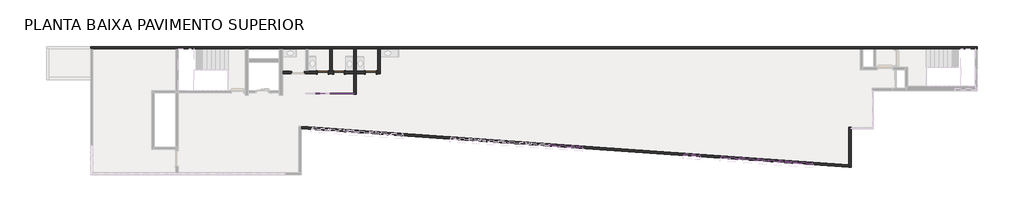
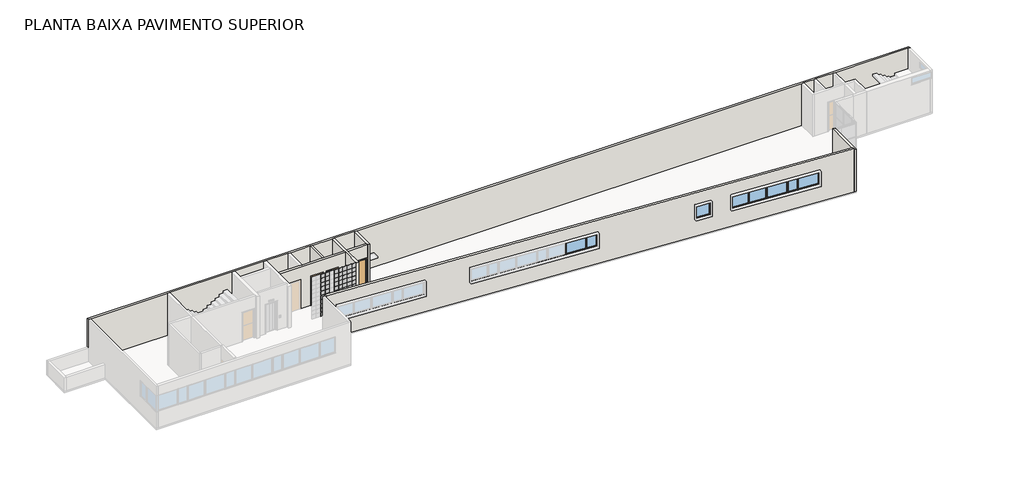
# One storey, part 2 of 4: 66 plates, 8 walls, 8 windows, 3 doors.
"""IFC4 building model written with IfcOpenShell, lengths in millimetres."""

from ifc_helpers import new_model, si_unit, frame, origin, place, context, project, spatial, polyline, outline, extrude, faceted_brep, transform, mapped, element, save
from components import door_700_x_2100_mm_6c6cf384, door_700_x_2100_mm_1d7fae46, painel_do_sistema_73d1a4aa, aluminum_exterior_window_2_wide_3886_0_70_x_1_00m_ebdd4f97, aluminum_exterior_window_2_wide_3886_1_00_x_1_00m_4173611b, aluminum_exterior_window_2_wide_3886_1_20_x_1_00m_ff6d45cf, aluminum_exterior_window_2_wide_3886_1_40_x_1_00m_dec34682

model = new_model("IFC4")

# Units and contexts
model_context = context("Model", 3, world=origin())
ifc_project = project(units=[si_unit("LENGTHUNIT", "METRE", prefix="MILLI")], contexts=[model_context])

# Site, building, storey
site = spatial("IfcSite", under=ifc_project)
building = spatial("IfcBuilding", under=site)
storey = spatial("IfcBuildingStorey", under=building, Name="PLANTA BAIXA PAVIMENTO SUPERIOR", Elevation=4000.0)

# Doors
placement = place(None, origin())
door_700_x_2100_mm_shape = door_700_x_2100_mm_6c6cf384(model_context)
element("IfcDoor", 1, ObjectType="M_Folha única : 700 x 2100 mm", at=placement, inside=storey, context=model_context, shape_type="MappedRepresentation", body=[
    mapped(door_700_x_2100_mm_shape, transform((1495.3673655, -4416.1116245, 4000.0), x_axis=(-1.0, 0.0, 0.0), y_axis=(0.0, -1.0, 0.0), z_axis=(0.0, 0.0, 1.0))),
])
door_700_x_2100_mm_2_shape = door_700_x_2100_mm_1d7fae46(model_context)
element("IfcDoor", 2, ObjectType="M_Folha única : 700 x 2100 mm", at=placement, inside=storey, context=model_context, shape_type="MappedRepresentation", body=[
    mapped(door_700_x_2100_mm_2_shape, transform((445.3673655, -4416.1116245, 4000.0), x_axis=(1.0, 0.0, 0.0), y_axis=(0.0, 1.0, 0.0), z_axis=(0.0, 0.0, 1.0))),
])
element("IfcDoor", 3, ObjectType="M_Folha única : 700 x 2100 mm", at=placement, inside=storey, context=model_context, shape_type="MappedRepresentation", body=[
    mapped(door_700_x_2100_mm_2_shape, transform((3545.3673655, -4416.1116245, 4000.0), x_axis=(1.0, 0.0, 0.0), y_axis=(0.0, 1.0, 0.0), z_axis=(0.0, 0.0, 1.0))),
])

# Plates
painel_do_sistema_shape = painel_do_sistema_73d1a4aa(model_context)
element("IfcPlate", 4, ObjectType="Painel do sistema : Envidraçado", at=placement, inside=storey, context=model_context, shape_type="MappedRepresentation", body=[
    mapped(painel_do_sistema_shape, transform((2290.3673654, -5741.1116245, 4000.0), x_axis=(-1.0, 0.0, 0.0), y_axis=(0.0, -1.0, 0.0), z_axis=(0.0, 0.0, 1.0))),
])
element("IfcPlate", 5, ObjectType="Painel do sistema : Envidraçado", at=placement, inside=storey, context=model_context, shape_type="MappedRepresentation", body=[
    mapped(painel_do_sistema_shape, transform((2290.3673654, -5741.1116245, 4310.0), x_axis=(-1.0, 0.0, 0.0), y_axis=(0.0, -1.0, 0.0), z_axis=(0.0, 0.0, 1.0))),
])
element("IfcPlate", 6, ObjectType="Painel do sistema : Envidraçado", at=placement, inside=storey, context=model_context, shape_type="MappedRepresentation", body=[
    mapped(painel_do_sistema_shape, transform((2290.3673654, -5741.1116245, 4620.0), x_axis=(-1.0, 0.0, 0.0), y_axis=(0.0, -1.0, 0.0), z_axis=(0.0, 0.0, 1.0))),
])
element("IfcPlate", 7, ObjectType="Painel do sistema : Envidraçado", at=placement, inside=storey, context=model_context, shape_type="MappedRepresentation", body=[
    mapped(painel_do_sistema_shape, transform((2290.3673654, -5741.1116245, 4930.0), x_axis=(-1.0, 0.0, 0.0), y_axis=(0.0, -1.0, 0.0), z_axis=(0.0, 0.0, 1.0))),
])
element("IfcPlate", 8, ObjectType="Painel do sistema : Envidraçado", at=placement, inside=storey, context=model_context, shape_type="MappedRepresentation", body=[
    mapped(painel_do_sistema_shape, transform((2290.3673654, -5741.1116245, 5240.0), x_axis=(-1.0, 0.0, 0.0), y_axis=(0.0, -1.0, 0.0), z_axis=(0.0, 0.0, 1.0))),
])
element("IfcPlate", 9, ObjectType="Painel do sistema : Envidraçado", at=placement, inside=storey, context=model_context, shape_type="MappedRepresentation", body=[
    mapped(painel_do_sistema_shape, transform((2290.3673654, -5741.1116245, 5550.0), x_axis=(-1.0, 0.0, 0.0), y_axis=(0.0, -1.0, 0.0), z_axis=(0.0, 0.0, 1.0))),
])
element("IfcPlate", 10, ObjectType="Painel do sistema : Envidraçado", at=placement, inside=storey, context=model_context, shape_type="MappedRepresentation", body=[
    mapped(painel_do_sistema_shape, transform((2290.3673654, -5741.1116245, 5860.0), x_axis=(-1.0, 0.0, 0.0), y_axis=(0.0, -1.0, 0.0), z_axis=(0.0, 0.0, 1.0))),
])
element("IfcPlate", 11, ObjectType="Painel do sistema : Envidraçado", at=placement, inside=storey, context=model_context, shape_type="MappedRepresentation", body=[
    mapped(painel_do_sistema_shape, transform((2290.3673654, -5741.1116245, 6170.0), x_axis=(-1.0, 0.0, 0.0), y_axis=(0.0, -1.0, 0.0), z_axis=(0.0, 0.0, 1.0))),
])
element("IfcPlate", 12, ObjectType="Painel do sistema : Envidraçado", at=placement, inside=storey, context=model_context, shape_type="MappedRepresentation", body=[
    mapped(painel_do_sistema_shape, transform((2290.3673654, -5741.1116245, 6480.0), x_axis=(-1.0, 0.0, 0.0), y_axis=(0.0, -1.0, 0.0), z_axis=(0.0, 0.0, 1.0))),
])
element("IfcPlate", 13, ObjectType="Painel do sistema : Envidraçado", at=placement, inside=storey, context=model_context, shape_type="MappedRepresentation", body=[
    mapped(painel_do_sistema_shape, transform((2290.3673654, -5741.1116245, 6790.0), x_axis=(-1.0, 0.0, 0.0), y_axis=(0.0, -1.0, 0.0), z_axis=(0.0, 0.0, 1.0))),
])
element("IfcPlate", 14, ObjectType="Painel do sistema : Envidraçado", at=placement, inside=storey, context=model_context, shape_type="MappedRepresentation", body=[
    mapped(painel_do_sistema_shape, transform((1980.3673653, -5741.1116245, 4000.0), x_axis=(-1.0, 0.0, 0.0), y_axis=(0.0, -1.0, 0.0), z_axis=(0.0, 0.0, 1.0))),
])
element("IfcPlate", 15, ObjectType="Painel do sistema : Envidraçado", at=placement, inside=storey, context=model_context, shape_type="MappedRepresentation", body=[
    mapped(painel_do_sistema_shape, transform((1980.3673653, -5741.1116245, 4310.0), x_axis=(-1.0, 0.0, 0.0), y_axis=(0.0, -1.0, 0.0), z_axis=(0.0, 0.0, 1.0))),
])
element("IfcPlate", 16, ObjectType="Painel do sistema : Envidraçado", at=placement, inside=storey, context=model_context, shape_type="MappedRepresentation", body=[
    mapped(painel_do_sistema_shape, transform((1980.3673653, -5741.1116245, 4620.0), x_axis=(-1.0, 0.0, 0.0), y_axis=(0.0, -1.0, 0.0), z_axis=(0.0, 0.0, 1.0))),
])
element("IfcPlate", 17, ObjectType="Painel do sistema : Envidraçado", at=placement, inside=storey, context=model_context, shape_type="MappedRepresentation", body=[
    mapped(painel_do_sistema_shape, transform((1980.3673653, -5741.1116245, 4930.0), x_axis=(-1.0, 0.0, 0.0), y_axis=(0.0, -1.0, 0.0), z_axis=(0.0, 0.0, 1.0))),
])
element("IfcPlate", 18, ObjectType="Painel do sistema : Envidraçado", at=placement, inside=storey, context=model_context, shape_type="MappedRepresentation", body=[
    mapped(painel_do_sistema_shape, transform((1980.3673653, -5741.1116245, 5240.0), x_axis=(-1.0, 0.0, 0.0), y_axis=(0.0, -1.0, 0.0), z_axis=(0.0, 0.0, 1.0))),
])
element("IfcPlate", 19, ObjectType="Painel do sistema : Envidraçado", at=placement, inside=storey, context=model_context, shape_type="MappedRepresentation", body=[
    mapped(painel_do_sistema_shape, transform((1980.3673653, -5741.1116245, 5550.0), x_axis=(-1.0, 0.0, 0.0), y_axis=(0.0, -1.0, 0.0), z_axis=(0.0, 0.0, 1.0))),
])
element("IfcPlate", 20, ObjectType="Painel do sistema : Envidraçado", at=placement, inside=storey, context=model_context, shape_type="MappedRepresentation", body=[
    mapped(painel_do_sistema_shape, transform((1980.3673653, -5741.1116245, 5860.0), x_axis=(-1.0, 0.0, 0.0), y_axis=(0.0, -1.0, 0.0), z_axis=(0.0, 0.0, 1.0))),
])
element("IfcPlate", 21, ObjectType="Painel do sistema : Envidraçado", at=placement, inside=storey, context=model_context, shape_type="MappedRepresentation", body=[
    mapped(painel_do_sistema_shape, transform((1980.3673653, -5741.1116245, 6170.0), x_axis=(-1.0, 0.0, 0.0), y_axis=(0.0, -1.0, 0.0), z_axis=(0.0, 0.0, 1.0))),
])
element("IfcPlate", 22, ObjectType="Painel do sistema : Envidraçado", at=placement, inside=storey, context=model_context, shape_type="MappedRepresentation", body=[
    mapped(painel_do_sistema_shape, transform((1980.3673653, -5741.1116245, 6480.0), x_axis=(-1.0, 0.0, 0.0), y_axis=(0.0, -1.0, 0.0), z_axis=(0.0, 0.0, 1.0))),
])
element("IfcPlate", 23, ObjectType="Painel do sistema : Envidraçado", at=placement, inside=storey, context=model_context, shape_type="MappedRepresentation", body=[
    mapped(painel_do_sistema_shape, transform((1980.3673653, -5741.1116245, 6790.0), x_axis=(-1.0, 0.0, 0.0), y_axis=(0.0, -1.0, 0.0), z_axis=(0.0, 0.0, 1.0))),
])
element("IfcPlate", 24, ObjectType="Painel do sistema : Envidraçado", at=placement, inside=storey, context=model_context, shape_type="MappedRepresentation", body=[
    mapped(painel_do_sistema_shape, transform((1670.3673654, -5741.1116245, 4000.0), x_axis=(-1.0, 0.0, 0.0), y_axis=(0.0, -1.0, 0.0), z_axis=(0.0, 0.0, 1.0))),
])
element("IfcPlate", 25, ObjectType="Painel do sistema : Envidraçado", at=placement, inside=storey, context=model_context, shape_type="MappedRepresentation", body=[
    mapped(painel_do_sistema_shape, transform((1670.3673654, -5741.1116245, 4310.0), x_axis=(-1.0, 0.0, 0.0), y_axis=(0.0, -1.0, 0.0), z_axis=(0.0, 0.0, 1.0))),
])
element("IfcPlate", 26, ObjectType="Painel do sistema : Envidraçado", at=placement, inside=storey, context=model_context, shape_type="MappedRepresentation", body=[
    mapped(painel_do_sistema_shape, transform((1670.3673654, -5741.1116245, 4620.0), x_axis=(-1.0, 0.0, 0.0), y_axis=(0.0, -1.0, 0.0), z_axis=(0.0, 0.0, 1.0))),
])
element("IfcPlate", 27, ObjectType="Painel do sistema : Envidraçado", at=placement, inside=storey, context=model_context, shape_type="MappedRepresentation", body=[
    mapped(painel_do_sistema_shape, transform((1670.3673654, -5741.1116245, 4930.0), x_axis=(-1.0, 0.0, 0.0), y_axis=(0.0, -1.0, 0.0), z_axis=(0.0, 0.0, 1.0))),
])
element("IfcPlate", 28, ObjectType="Painel do sistema : Envidraçado", at=placement, inside=storey, context=model_context, shape_type="MappedRepresentation", body=[
    mapped(painel_do_sistema_shape, transform((1670.3673654, -5741.1116245, 5240.0), x_axis=(-1.0, 0.0, 0.0), y_axis=(0.0, -1.0, 0.0), z_axis=(0.0, 0.0, 1.0))),
])
element("IfcPlate", 29, ObjectType="Painel do sistema : Envidraçado", at=placement, inside=storey, context=model_context, shape_type="MappedRepresentation", body=[
    mapped(painel_do_sistema_shape, transform((1670.3673654, -5741.1116245, 5550.0), x_axis=(-1.0, 0.0, 0.0), y_axis=(0.0, -1.0, 0.0), z_axis=(0.0, 0.0, 1.0))),
])
element("IfcPlate", 30, ObjectType="Painel do sistema : Envidraçado", at=placement, inside=storey, context=model_context, shape_type="MappedRepresentation", body=[
    mapped(painel_do_sistema_shape, transform((1670.3673654, -5741.1116245, 5860.0), x_axis=(-1.0, 0.0, 0.0), y_axis=(0.0, -1.0, 0.0), z_axis=(0.0, 0.0, 1.0))),
])
element("IfcPlate", 31, ObjectType="Painel do sistema : Envidraçado", at=placement, inside=storey, context=model_context, shape_type="MappedRepresentation", body=[
    mapped(painel_do_sistema_shape, transform((1670.3673654, -5741.1116245, 6170.0), x_axis=(-1.0, 0.0, 0.0), y_axis=(0.0, -1.0, 0.0), z_axis=(0.0, 0.0, 1.0))),
])
element("IfcPlate", 32, ObjectType="Painel do sistema : Envidraçado", at=placement, inside=storey, context=model_context, shape_type="MappedRepresentation", body=[
    mapped(painel_do_sistema_shape, transform((1670.3673654, -5741.1116245, 6480.0), x_axis=(-1.0, 0.0, 0.0), y_axis=(0.0, -1.0, 0.0), z_axis=(0.0, 0.0, 1.0))),
])
element("IfcPlate", 33, ObjectType="Painel do sistema : Envidraçado", at=placement, inside=storey, context=model_context, shape_type="MappedRepresentation", body=[
    mapped(painel_do_sistema_shape, transform((1670.3673654, -5741.1116245, 6790.0), x_axis=(-1.0, 0.0, 0.0), y_axis=(0.0, -1.0, 0.0), z_axis=(0.0, 0.0, 1.0))),
])
element("IfcPlate", 34, ObjectType="Painel do sistema : Envidraçado", at=placement, inside=storey, context=model_context, shape_type="MappedRepresentation", body=[
    mapped(painel_do_sistema_shape, transform((1360.3673654, -5741.1116245, 4000.0), x_axis=(-1.0, 0.0, 0.0), y_axis=(0.0, -1.0, 0.0), z_axis=(0.0, 0.0, 1.0))),
])
element("IfcPlate", 35, ObjectType="Painel do sistema : Envidraçado", at=placement, inside=storey, context=model_context, shape_type="MappedRepresentation", body=[
    mapped(painel_do_sistema_shape, transform((1360.3673654, -5741.1116245, 4310.0), x_axis=(-1.0, 0.0, 0.0), y_axis=(0.0, -1.0, 0.0), z_axis=(0.0, 0.0, 1.0))),
])
element("IfcPlate", 36, ObjectType="Painel do sistema : Envidraçado", at=placement, inside=storey, context=model_context, shape_type="MappedRepresentation", body=[
    mapped(painel_do_sistema_shape, transform((1360.3673654, -5741.1116245, 4620.0), x_axis=(-1.0, 0.0, 0.0), y_axis=(0.0, -1.0, 0.0), z_axis=(0.0, 0.0, 1.0))),
])
element("IfcPlate", 37, ObjectType="Painel do sistema : Envidraçado", at=placement, inside=storey, context=model_context, shape_type="MappedRepresentation", body=[
    mapped(painel_do_sistema_shape, transform((1360.3673654, -5741.1116245, 4930.0), x_axis=(-1.0, 0.0, 0.0), y_axis=(0.0, -1.0, 0.0), z_axis=(0.0, 0.0, 1.0))),
])
element("IfcPlate", 38, ObjectType="Painel do sistema : Envidraçado", at=placement, inside=storey, context=model_context, shape_type="MappedRepresentation", body=[
    mapped(painel_do_sistema_shape, transform((1360.3673654, -5741.1116245, 5240.0), x_axis=(-1.0, 0.0, 0.0), y_axis=(0.0, -1.0, 0.0), z_axis=(0.0, 0.0, 1.0))),
])
element("IfcPlate", 39, ObjectType="Painel do sistema : Envidraçado", at=placement, inside=storey, context=model_context, shape_type="MappedRepresentation", body=[
    mapped(painel_do_sistema_shape, transform((1360.3673654, -5741.1116245, 5550.0), x_axis=(-1.0, 0.0, 0.0), y_axis=(0.0, -1.0, 0.0), z_axis=(0.0, 0.0, 1.0))),
])
element("IfcPlate", 40, ObjectType="Painel do sistema : Envidraçado", at=placement, inside=storey, context=model_context, shape_type="MappedRepresentation", body=[
    mapped(painel_do_sistema_shape, transform((1360.3673654, -5741.1116245, 5860.0), x_axis=(-1.0, 0.0, 0.0), y_axis=(0.0, -1.0, 0.0), z_axis=(0.0, 0.0, 1.0))),
])
element("IfcPlate", 41, ObjectType="Painel do sistema : Envidraçado", at=placement, inside=storey, context=model_context, shape_type="MappedRepresentation", body=[
    mapped(painel_do_sistema_shape, transform((1360.3673654, -5741.1116245, 6170.0), x_axis=(-1.0, 0.0, 0.0), y_axis=(0.0, -1.0, 0.0), z_axis=(0.0, 0.0, 1.0))),
])
element("IfcPlate", 42, ObjectType="Painel do sistema : Envidraçado", at=placement, inside=storey, context=model_context, shape_type="MappedRepresentation", body=[
    mapped(painel_do_sistema_shape, transform((1360.3673654, -5741.1116245, 6480.0), x_axis=(-1.0, 0.0, 0.0), y_axis=(0.0, -1.0, 0.0), z_axis=(0.0, 0.0, 1.0))),
])
element("IfcPlate", 43, ObjectType="Painel do sistema : Envidraçado", at=placement, inside=storey, context=model_context, shape_type="MappedRepresentation", body=[
    mapped(painel_do_sistema_shape, transform((1360.3673654, -5741.1116245, 6790.0), x_axis=(-1.0, 0.0, 0.0), y_axis=(0.0, -1.0, 0.0), z_axis=(0.0, 0.0, 1.0))),
])
element("IfcPlate", 44, ObjectType="Painel do sistema : Envidraçado", at=placement, inside=storey, context=model_context, shape_type="MappedRepresentation", body=[
    mapped(painel_do_sistema_shape, transform((1050.3673655, -5741.1116245, 4000.0), x_axis=(-1.0, 0.0, 0.0), y_axis=(0.0, -1.0, 0.0), z_axis=(0.0, 0.0, 1.0))),
])
element("IfcPlate", 45, ObjectType="Painel do sistema : Envidraçado", at=placement, inside=storey, context=model_context, shape_type="MappedRepresentation", body=[
    mapped(painel_do_sistema_shape, transform((1050.3673655, -5741.1116245, 4310.0), x_axis=(-1.0, 0.0, 0.0), y_axis=(0.0, -1.0, 0.0), z_axis=(0.0, 0.0, 1.0))),
])
element("IfcPlate", 46, ObjectType="Painel do sistema : Envidraçado", at=placement, inside=storey, context=model_context, shape_type="MappedRepresentation", body=[
    mapped(painel_do_sistema_shape, transform((1050.3673655, -5741.1116245, 4620.0), x_axis=(-1.0, 0.0, 0.0), y_axis=(0.0, -1.0, 0.0), z_axis=(0.0, 0.0, 1.0))),
])
element("IfcPlate", 47, ObjectType="Painel do sistema : Envidraçado", at=placement, inside=storey, context=model_context, shape_type="MappedRepresentation", body=[
    mapped(painel_do_sistema_shape, transform((1050.3673655, -5741.1116245, 4930.0), x_axis=(-1.0, 0.0, 0.0), y_axis=(0.0, -1.0, 0.0), z_axis=(0.0, 0.0, 1.0))),
])
element("IfcPlate", 48, ObjectType="Painel do sistema : Envidraçado", at=placement, inside=storey, context=model_context, shape_type="MappedRepresentation", body=[
    mapped(painel_do_sistema_shape, transform((1050.3673655, -5741.1116245, 5240.0), x_axis=(-1.0, 0.0, 0.0), y_axis=(0.0, -1.0, 0.0), z_axis=(0.0, 0.0, 1.0))),
])
element("IfcPlate", 49, ObjectType="Painel do sistema : Envidraçado", at=placement, inside=storey, context=model_context, shape_type="MappedRepresentation", body=[
    mapped(painel_do_sistema_shape, transform((1050.3673655, -5741.1116245, 5550.0), x_axis=(-1.0, 0.0, 0.0), y_axis=(0.0, -1.0, 0.0), z_axis=(0.0, 0.0, 1.0))),
])
element("IfcPlate", 50, ObjectType="Painel do sistema : Envidraçado", at=placement, inside=storey, context=model_context, shape_type="MappedRepresentation", body=[
    mapped(painel_do_sistema_shape, transform((1050.3673655, -5741.1116245, 5860.0), x_axis=(-1.0, 0.0, 0.0), y_axis=(0.0, -1.0, 0.0), z_axis=(0.0, 0.0, 1.0))),
])
element("IfcPlate", 51, ObjectType="Painel do sistema : Envidraçado", at=placement, inside=storey, context=model_context, shape_type="MappedRepresentation", body=[
    mapped(painel_do_sistema_shape, transform((1050.3673655, -5741.1116245, 6170.0), x_axis=(-1.0, 0.0, 0.0), y_axis=(0.0, -1.0, 0.0), z_axis=(0.0, 0.0, 1.0))),
])
element("IfcPlate", 52, ObjectType="Painel do sistema : Envidraçado", at=placement, inside=storey, context=model_context, shape_type="MappedRepresentation", body=[
    mapped(painel_do_sistema_shape, transform((1050.3673655, -5741.1116245, 6480.0), x_axis=(-1.0, 0.0, 0.0), y_axis=(0.0, -1.0, 0.0), z_axis=(0.0, 0.0, 1.0))),
])
element("IfcPlate", 53, ObjectType="Painel do sistema : Envidraçado", at=placement, inside=storey, context=model_context, shape_type="MappedRepresentation", body=[
    mapped(painel_do_sistema_shape, transform((1050.3673655, -5741.1116245, 6790.0), x_axis=(-1.0, 0.0, 0.0), y_axis=(0.0, -1.0, 0.0), z_axis=(0.0, 0.0, 1.0))),
])
element("IfcPlate", 54, ObjectType="Painel do sistema : Envidraçado", at=placement, inside=storey, context=model_context, shape_type="MappedRepresentation", body=[
    mapped(painel_do_sistema_shape, transform((430.3673656, -5741.1116245, 5240.0), x_axis=(-1.0, 0.0, 0.0), y_axis=(0.0, -1.0, 0.0), z_axis=(0.0, 0.0, 1.0))),
])
element("IfcPlate", 55, ObjectType="Painel do sistema : Envidraçado", at=placement, inside=storey, context=model_context, shape_type="MappedRepresentation", body=[
    mapped(painel_do_sistema_shape, transform((430.3673656, -5741.1116245, 5550.0), x_axis=(-1.0, 0.0, 0.0), y_axis=(0.0, -1.0, 0.0), z_axis=(0.0, 0.0, 1.0))),
])
element("IfcPlate", 56, ObjectType="Painel do sistema : Envidraçado", at=placement, inside=storey, context=model_context, shape_type="MappedRepresentation", body=[
    mapped(painel_do_sistema_shape, transform((430.3673656, -5741.1116245, 5860.0), x_axis=(-1.0, 0.0, 0.0), y_axis=(0.0, -1.0, 0.0), z_axis=(0.0, 0.0, 1.0))),
])
element("IfcPlate", 57, ObjectType="Painel do sistema : Envidraçado", at=placement, inside=storey, context=model_context, shape_type="MappedRepresentation", body=[
    mapped(painel_do_sistema_shape, transform((430.3673656, -5741.1116245, 6170.0), x_axis=(-1.0, 0.0, 0.0), y_axis=(0.0, -1.0, 0.0), z_axis=(0.0, 0.0, 1.0))),
])
element("IfcPlate", 58, ObjectType="Painel do sistema : Envidraçado", at=placement, inside=storey, context=model_context, shape_type="MappedRepresentation", body=[
    mapped(painel_do_sistema_shape, transform((430.3673656, -5741.1116245, 6480.0), x_axis=(-1.0, 0.0, 0.0), y_axis=(0.0, -1.0, 0.0), z_axis=(0.0, 0.0, 1.0))),
])
element("IfcPlate", 59, ObjectType="Painel do sistema : Envidraçado", at=placement, inside=storey, context=model_context, shape_type="MappedRepresentation", body=[
    mapped(painel_do_sistema_shape, transform((430.3673656, -5741.1116245, 6790.0), x_axis=(-1.0, 0.0, 0.0), y_axis=(0.0, -1.0, 0.0), z_axis=(0.0, 0.0, 1.0))),
])
element("IfcPlate", 60, ObjectType="Painel do sistema : Envidraçado", at=placement, inside=storey, context=model_context, shape_type="MappedRepresentation", body=[
    mapped(painel_do_sistema_shape, transform((120.3673657, -5741.1116245, 4000.0), x_axis=(-1.0, 0.0, 0.0), y_axis=(0.0, -1.0, 0.0), z_axis=(0.0, 0.0, 1.0))),
])
element("IfcPlate", 61, ObjectType="Painel do sistema : Envidraçado", at=placement, inside=storey, context=model_context, shape_type="MappedRepresentation", body=[
    mapped(painel_do_sistema_shape, transform((120.3673657, -5741.1116245, 4310.0), x_axis=(-1.0, 0.0, 0.0), y_axis=(0.0, -1.0, 0.0), z_axis=(0.0, 0.0, 1.0))),
])
element("IfcPlate", 62, ObjectType="Painel do sistema : Envidraçado", at=placement, inside=storey, context=model_context, shape_type="MappedRepresentation", body=[
    mapped(painel_do_sistema_shape, transform((120.3673657, -5741.1116245, 4620.0), x_axis=(-1.0, 0.0, 0.0), y_axis=(0.0, -1.0, 0.0), z_axis=(0.0, 0.0, 1.0))),
])
element("IfcPlate", 63, ObjectType="Painel do sistema : Envidraçado", at=placement, inside=storey, context=model_context, shape_type="MappedRepresentation", body=[
    mapped(painel_do_sistema_shape, transform((120.3673657, -5741.1116245, 4930.0), x_axis=(-1.0, 0.0, 0.0), y_axis=(0.0, -1.0, 0.0), z_axis=(0.0, 0.0, 1.0))),
])
element("IfcPlate", 64, ObjectType="Painel do sistema : Envidraçado", at=placement, inside=storey, context=model_context, shape_type="MappedRepresentation", body=[
    mapped(painel_do_sistema_shape, transform((120.3673657, -5741.1116245, 5240.0), x_axis=(-1.0, 0.0, 0.0), y_axis=(0.0, -1.0, 0.0), z_axis=(0.0, 0.0, 1.0))),
])
element("IfcPlate", 65, ObjectType="Painel do sistema : Envidraçado", at=placement, inside=storey, context=model_context, shape_type="MappedRepresentation", body=[
    mapped(painel_do_sistema_shape, transform((120.3673657, -5741.1116245, 5550.0), x_axis=(-1.0, 0.0, 0.0), y_axis=(0.0, -1.0, 0.0), z_axis=(0.0, 0.0, 1.0))),
])
element("IfcPlate", 66, ObjectType="Painel do sistema : Envidraçado", at=placement, inside=storey, context=model_context, shape_type="MappedRepresentation", body=[
    mapped(painel_do_sistema_shape, transform((120.3673657, -5741.1116245, 5860.0), x_axis=(-1.0, 0.0, 0.0), y_axis=(0.0, -1.0, 0.0), z_axis=(0.0, 0.0, 1.0))),
])
element("IfcPlate", 67, ObjectType="Painel do sistema : Envidraçado", at=placement, inside=storey, context=model_context, shape_type="MappedRepresentation", body=[
    mapped(painel_do_sistema_shape, transform((120.3673657, -5741.1116245, 6170.0), x_axis=(-1.0, 0.0, 0.0), y_axis=(0.0, -1.0, 0.0), z_axis=(0.0, 0.0, 1.0))),
])
element("IfcPlate", 68, ObjectType="Painel do sistema : Envidraçado", at=placement, inside=storey, context=model_context, shape_type="MappedRepresentation", body=[
    mapped(painel_do_sistema_shape, transform((120.3673657, -5741.1116245, 6480.0), x_axis=(-1.0, 0.0, 0.0), y_axis=(0.0, -1.0, 0.0), z_axis=(0.0, 0.0, 1.0))),
])
element("IfcPlate", 69, ObjectType="Painel do sistema : Envidraçado", at=placement, inside=storey, context=model_context, shape_type="MappedRepresentation", body=[
    mapped(painel_do_sistema_shape, transform((120.3673657, -5741.1116245, 6790.0), x_axis=(-1.0, 0.0, 0.0), y_axis=(0.0, -1.0, 0.0), z_axis=(0.0, 0.0, 1.0))),
])

# Walls
element("IfcWall", 70, ObjectType="Genérica - 15cm", at=placement, inside=storey, context=model_context, shape_type="Brep", body=[
    faceted_brep([(-14554.6326345, -2891.1116245, 7100.0), (-14554.6326345, -2891.1116245, 5000.0), (-14554.6326345, -2891.1116245, 4000.0), (-14404.6326345, -2891.1116245, 4000.0), (-9054.6326345, -2891.1116245, 4000.0), (-8904.6326345, -2891.1116245, 4000.0), (-4554.6326345, -2891.1116245, 4000.0), (-4354.6326345, -2891.1116245, 4000.0), (-2354.6326345, -2891.1116245, 4000.0), (-2154.6326345, -2891.1116245, 4000.0), (-654.6326345, -2891.1116245, 4000.0), (-504.6326345, -2891.1116245, 4000.0), (895.3673655, -2891.1116245, 4000.0), (1045.3673655, -2891.1116245, 4000.0), (2445.3673655, -2891.1116245, 4000.0), (2595.3673655, -2891.1116245, 4000.0), (3995.3673655, -2891.1116245, 4000.0), (4145.3673655, -2891.1116245, 4000.0), (35195.3673655, -2891.1116245, 4000.0), (35345.3673655, -2891.1116245, 4000.0), (36045.3673655, -2891.1116245, 4000.0), (36195.3673655, -2891.1116245, 4000.0), (37395.3673655, -2891.1116245, 4000.0), (37545.3673655, -2891.1116245, 4000.0), (42605.3673655, -2891.1116245, 4000.0), (42755.3673655, -2891.1116245, 4000.0), (42755.3673655, -2891.1116245, 7100.0), (42605.3673655, -2891.1116245, 7100.0), (37545.3673655, -2891.1116245, 7100.0), (37395.3673655, -2891.1116245, 7100.0), (36195.3673655, -2891.1116245, 7100.0), (36045.3673655, -2891.1116245, 7100.0), (35345.3673655, -2891.1116245, 7100.0), (35195.3673655, -2891.1116245, 7100.0), (4145.3673655, -2891.1116245, 7100.0), (3995.3673655, -2891.1116245, 7100.0), (2595.3673655, -2891.1116245, 7100.0), (2445.3673655, -2891.1116245, 7100.0), (1045.3673655, -2891.1116245, 7100.0), (895.3673655, -2891.1116245, 7100.0), (-504.6326345, -2891.1116245, 7100.0), (-654.6326345, -2891.1116245, 7100.0), (-2154.6326345, -2891.1116245, 7100.0), (-2354.6326345, -2891.1116245, 7100.0), (-4354.6326345, -2891.1116245, 7100.0), (-4554.6326345, -2891.1116245, 7100.0), (-8904.6326345, -2891.1116245, 7100.0), (-9054.6326345, -2891.1116245, 7100.0), (-14404.6326345, -2891.1116245, 7100.0), (-14554.6326345, -2741.1116245, 4000.0), (-14554.6326345, -2741.1116245, 5000.0), (-14554.6326345, -2741.1116245, 7100.0), (42755.3673655, -2741.1116245, 7100.0), (42755.3673655, -2741.1116245, 4000.0)], [[[0, 1, 2, 3, 4, 5, 6, 7, 8, 9, 10, 11, 12, 13, 14, 15, 16, 17, 18, 19, 20, 21, 22, 23, 24, 25, 26, 27, 28, 29, 30, 31, 32, 33, 34, 35, 36, 37, 38, 39, 40, 41, 42, 43, 44, 45, 46, 47, 48]], [[49, 50, 51, 52, 53]], [[25, 24, 23, 22, 21, 20, 19, 18, 17, 16, 15, 14, 13, 12, 11, 10, 9, 8, 7, 6, 5, 4, 3, 2, 49, 53]], [[26, 25, 53, 52]], [[0, 51, 50, 49, 2, 1]], [[0, 48, 47, 46, 45, 44, 43, 42, 41, 40, 39, 38, 37, 36, 35, 34, 33, 32, 31, 30, 29, 28, 27, 26, 52, 51]]]),
])
element("IfcWall", 71, ObjectType="Genérica - 15cm", at=placement, inside=storey, context=model_context, shape_type="Brep", body=[
    faceted_brep([(34445.3673655, -7966.1116245, 4000.0), (34445.3673655, -10390.7380353, 4000.0), (34445.3673655, -10541.1116245, 4000.0), (34445.3673655, -10541.1116245, 7100.0), (34445.3673655, -7966.1116245, 7100.0), (34595.3673655, -7966.1116245, 4000.0), (34595.3673655, -7966.1116245, 7100.0), (34595.3673655, -8041.1116245, 7100.0), (34595.3673655, -10551.7048448, 7100.0), (34595.3673655, -10551.7048448, 4000.0)], [[[0, 1, 2, 3, 4]], [[5, 6, 7, 8, 9]], [[2, 1, 0, 5, 9]], [[0, 4, 6, 5]], [[3, 2, 9, 8]], [[4, 3, 8, 7, 6]]]),
])
element("IfcWall", 72, ObjectType="Genérica - 15cm", at=placement, inside=storey, context=model_context, shape_type="Brep", body=[
    faceted_brep([(34445.3673655, -10390.7380353, 4000.0), (-954.6326345, -7890.7380353, 4000.0), (-954.6326345, -7890.7380353, 7100.0), (-954.6326345, -7890.7380353, 7200.0), (34445.3673655, -10390.7380353, 7200.0), (-226.8189124, -7942.1373095, 6300.0), (-226.8189124, -7942.1373095, 5300.0), (5608.6473081, -8354.2465059, 5300.0), (5608.6473081, -8354.2465059, 6300.0), (8730.8711149, -8574.7425374, 6300.0), (8730.8711149, -8574.7425374, 5300.0), (17209.7536575, -9173.5336774, 5300.0), (17209.7536575, -9173.5336774, 6300.0), (24800.8473221, -9709.6278628, 6300.0), (23803.3317288, -9639.1818463, 6300.0), (23803.3317288, -9639.1818463, 5300.0), (24800.8473221, -9709.6278628, 5300.0), (32092.6863087, -10224.5882432, 6300.0), (26207.3443085, -9808.956746, 6300.0), (26207.3443085, -9808.956746, 5300.0), (32092.6863087, -10224.5882432, 5300.0), (-954.6326345, -8041.1116245, 4000.0), (34445.3673655, -10541.1116245, 4000.0), (34445.3673655, -10541.1116245, 7100.0), (34445.3673655, -10541.1116245, 7200.0), (-954.6326345, -8041.1116245, 7200.0), (-237.3858149, -8091.7646485, 5300.0), (-237.3858149, -8091.7646485, 6300.0), (5598.0804056, -8503.8738449, 6300.0), (5598.0804056, -8503.8738449, 5300.0), (8720.3042124, -8724.3698764, 5300.0), (8720.3042124, -8724.3698764, 6300.0), (17199.186755, -9323.1610164, 6300.0), (17199.186755, -9323.1610164, 5300.0), (24790.2804196, -9859.2552018, 6300.0), (24790.2804196, -9859.2552018, 5300.0), (23792.7648263, -9788.8091853, 5300.0), (23792.7648263, -9788.8091853, 6300.0), (32082.1194062, -10374.2155822, 5300.0), (26196.7774061, -9958.584085, 5300.0), (26196.7774061, -9958.584085, 6300.0), (32082.1194062, -10374.2155822, 6300.0)], [[[0, 1, 2, 3, 4], [5, 6, 7, 8], [9, 10, 11, 12], [13, 14, 15, 16], [17, 18, 19, 20]], [[21, 22, 23, 24, 25], [26, 27, 28, 29], [30, 31, 32, 33], [34, 35, 36, 37], [38, 39, 40, 41]], [[1, 0, 22, 21]], [[4, 3, 25, 24]], [[0, 4, 24, 23, 22]], [[3, 2, 1, 21, 25]], [[6, 26, 29, 7]], [[27, 26, 6, 5]], [[27, 5, 8, 28]], [[28, 8, 7, 29]], [[10, 30, 33, 11]], [[31, 30, 10, 9]], [[31, 9, 12, 32]], [[32, 12, 11, 33]], [[35, 34, 13, 16]], [[36, 35, 16, 15]], [[37, 36, 15, 14]], [[34, 37, 14, 13]], [[19, 39, 38, 20]], [[40, 39, 19, 18]], [[40, 18, 17, 41]], [[41, 17, 20, 38]]]),
])
element("IfcWall", 73, ObjectType="Genérica - 15cm", at=placement, inside=storey, context=model_context, shape_type="Brep", body=[
    faceted_brep([(3995.3673655, -2891.1116245, 4000.0), (3995.3673655, -4341.1116245, 4000.0), (3995.3673655, -4491.1116245, 4000.0), (3995.3673655, -4491.1116245, 7100.0), (3995.3673655, -4341.1116245, 7100.0), (3995.3673655, -2891.1116245, 7100.0), (4145.3673655, -2891.1116245, 4000.0), (4145.3673655, -2891.1116245, 7100.0), (4145.3673655, -4491.1116245, 7100.0), (4145.3673655, -4491.1116245, 4000.0)], [[[0, 1, 2, 3, 4, 5]], [[6, 7, 8, 9]], [[2, 1, 0, 6, 9]], [[0, 5, 7, 6]], [[3, 2, 9, 8]], [[5, 4, 3, 8, 7]]]),
])
element("IfcWall", 74, ObjectType="Genérica - 15cm", at=placement, inside=storey, context=model_context, shape_type="SweptSolid", body=[
    extrude(outline(polyline([(6100.0, 3895.3673655), (4000.0, 3895.3673655), (4000.0, 3995.3673655), (7100.0, 3995.3673655), (7100.0, 2595.3673655), (4000.0, 2595.3673655), (4000.0, 3195.3673655), (6100.0, 3195.3673655), (6100.0, 3895.3673655)])), frame((0.0, -4491.1116245, 0.0), z_axis=(0.0, 1.0, 0.0), x_axis=(0.0, 0.0, 1.0)), (0.0, 0.0, 1.0), 150.0),
])
element("IfcWall", 75, ObjectType="Genérica - 15cm", at=placement, inside=storey, context=model_context, shape_type="Brep", body=[
    faceted_brep([(2445.3673655, -2891.1116245, 4000.0), (2445.3673655, -4341.1116245, 4000.0), (2445.3673655, -4491.1116245, 4000.0), (2445.3673655, -5816.1116245, 4000.0), (2445.3673655, -5816.1116245, 7100.0), (2445.3673655, -4491.1116245, 7100.0), (2445.3673655, -4341.1116245, 7100.0), (2445.3673655, -2891.1116245, 7100.0), (2595.3673655, -2891.1116245, 4000.0), (2595.3673655, -2891.1116245, 7100.0), (2595.3673655, -4341.1116245, 7100.0), (2595.3673655, -4491.1116245, 7100.0), (2595.3673655, -5816.1116245, 7100.0), (2595.3673655, -5816.1116245, 4000.0), (2595.3673655, -4491.1116245, 4000.0), (2595.3673655, -4341.1116245, 4000.0)], [[[0, 1, 2, 3, 4, 5, 6, 7]], [[8, 9, 10, 11, 12, 13, 14, 15]], [[3, 2, 1, 0, 8, 15, 14, 13]], [[4, 3, 13, 12]], [[0, 7, 9, 8]], [[7, 6, 5, 4, 12, 11, 10, 9]]]),
])
element("IfcWall", 76, ObjectType="Genérica - 15cm", at=placement, inside=storey, context=model_context, shape_type="Brep", body=[
    faceted_brep([(1145.3673655, -4341.1116245, 6100.0), (1145.3673655, -4341.1116245, 4000.0), (1045.3673655, -4341.1116245, 4000.0), (895.3673655, -4341.1116245, 4000.0), (795.3673655, -4341.1116245, 4000.0), (795.3673655, -4341.1116245, 6100.0), (95.3673655, -4341.1116245, 6100.0), (95.3673655, -4341.1116245, 4000.0), (-504.6326345, -4341.1116245, 4000.0), (-654.6326345, -4341.1116245, 4000.0), (-754.6326345, -4341.1116245, 4000.0), (-754.6326345, -4341.1116245, 6100.0), (-1554.6326345, -4341.1116245, 6100.0), (-1554.6326345, -4341.1116245, 4000.0), (-2154.6326345, -4341.1116245, 4000.0), (-2154.6326345, -4341.1116245, 7100.0), (-654.6326345, -4341.1116245, 7100.0), (-504.6326345, -4341.1116245, 7100.0), (895.3673655, -4341.1116245, 7100.0), (1045.3673655, -4341.1116245, 7100.0), (2445.3673655, -4341.1116245, 7100.0), (2445.3673655, -4341.1116245, 4000.0), (1845.3673655, -4341.1116245, 4000.0), (1845.3673655, -4341.1116245, 6100.0), (795.3673655, -4491.1116245, 4000.0), (1145.3673655, -4491.1116245, 4000.0), (1145.3673655, -4491.1116245, 6100.0), (1845.3673655, -4491.1116245, 6100.0), (1845.3673655, -4491.1116245, 4000.0), (2445.3673655, -4491.1116245, 4000.0), (2445.3673655, -4491.1116245, 7100.0), (-2154.6326345, -4491.1116245, 7100.0), (-2154.6326345, -4491.1116245, 4000.0), (-1554.6326345, -4491.1116245, 4000.0), (-1554.6326345, -4491.1116245, 6100.0), (-754.6326345, -4491.1116245, 6100.0), (-754.6326345, -4491.1116245, 4000.0), (95.3673655, -4491.1116245, 4000.0), (95.3673655, -4491.1116245, 6100.0), (795.3673655, -4491.1116245, 6100.0)], [[[0, 1, 2, 3, 4, 5, 6, 7, 8, 9, 10, 11, 12, 13, 14, 15, 16, 17, 18, 19, 20, 21, 22, 23]], [[24, 25, 26, 27, 28, 29, 30, 31, 32, 33, 34, 35, 36, 37, 38, 39]], [[14, 13, 33, 32]], [[37, 36, 10, 9, 8, 7]], [[22, 21, 29, 28]], [[4, 3, 2, 1, 25, 24]], [[15, 14, 32, 31]], [[21, 20, 30, 29]], [[20, 19, 18, 17, 16, 15, 31, 30]], [[34, 33, 13, 12]], [[35, 34, 12, 11]], [[36, 35, 11, 10]], [[5, 4, 24, 39]], [[6, 5, 39, 38]], [[7, 6, 38, 37]], [[26, 25, 1, 0]], [[27, 26, 0, 23]], [[28, 27, 23, 22]]]),
])
element("IfcWall", 77, ObjectType="Genérica - 15cm", at=placement, inside=storey, context=model_context, shape_type="SweptSolid", body=[
    extrude(outline(polyline([(895.3673655, -4341.1116245), (895.3673655, -2891.1116245), (1045.3673655, -2891.1116245), (1045.3673655, -4341.1116245), (895.3673655, -4341.1116245)])), frame((0.0, 0.0, 4000.0), z_axis=(0.0, 0.0, 1.0), x_axis=(1.0, 0.0, 0.0)), (0.0, 0.0, 1.0), 3100.0),
])

# Windows
aluminum_exterior_window_2_wide_3886_0_70_x_1_00m_shape = aluminum_exterior_window_2_wide_3886_0_70_x_1_00m_ebdd4f97(model_context)
element("IfcWindow", 78, ObjectType="Aluminum_Exterior_Window_-_2_Wide_3886 : 0,70 x 1,00m", at=placement, inside=storey, context=model_context, shape_type="MappedRepresentation", body=[
    mapped(aluminum_exterior_window_2_wide_3886_0_70_x_1_00m_shape, transform((17872.5308068, -9322.1504365, 4284.0), x_axis=(0.9975155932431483, -0.07044601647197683, 0.0), y_axis=(0.07044601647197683, 0.9975155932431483, 0.0), z_axis=(0.0, 0.0, 1.0))),
])
element("IfcWindow", 79, ObjectType="Aluminum_Exterior_Window_-_2_Wide_3886 : 0,70 x 1,00m", at=placement, inside=storey, context=model_context, shape_type="MappedRepresentation", body=[
    mapped(aluminum_exterior_window_2_wide_3886_0_70_x_1_00m_shape, transform((31358.9416275, -10274.5805792, 4284.0), x_axis=(0.9975155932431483, -0.07044601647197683, 0.0), y_axis=(0.07044601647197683, 0.9975155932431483, 0.0), z_axis=(0.0, 0.0, 1.0))),
])
aluminum_exterior_window_2_wide_3886_1_00_x_1_00m_shape = aluminum_exterior_window_2_wide_3886_1_00_x_1_00m_4173611b(model_context)
element("IfcWindow", 80, ObjectType="Aluminum_Exterior_Window_-_2_Wide_3886 : 1,00 x 1,00m", at=placement, inside=storey, context=model_context, shape_type="MappedRepresentation", body=[
    mapped(aluminum_exterior_window_2_wide_3886_1_00_x_1_00m_shape, transform((25164.3697934, -9837.1108169, 4240.0), x_axis=(0.9975155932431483, -0.07044601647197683, 0.0), y_axis=(0.07044601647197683, 0.9975155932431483, 0.0), z_axis=(0.0, 0.0, 1.0))),
])
aluminum_exterior_window_2_wide_3886_1_20_x_1_00m_shape = aluminum_exterior_window_2_wide_3886_1_20_x_1_00m_ff6d45cf(model_context)
element("IfcWindow", 81, ObjectType="Aluminum_Exterior_Window_-_2_Wide_3886 : 1,20 x 1,00m", at=placement, inside=storey, context=model_context, shape_type="MappedRepresentation", body=[
    mapped(aluminum_exterior_window_2_wide_3886_1_20_x_1_00m_shape, transform((27568.3823732, -10006.8857166, 4284.0), x_axis=(0.9975155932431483, -0.07044601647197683, 0.0), y_axis=(0.07044601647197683, 0.9975155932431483, 0.0), z_axis=(0.0, 0.0, 1.0))),
])
element("IfcWindow", 82, ObjectType="Aluminum_Exterior_Window_-_2_Wide_3886 : 1,20 x 1,00m", at=placement, inside=storey, context=model_context, shape_type="MappedRepresentation", body=[
    mapped(aluminum_exterior_window_2_wide_3886_1_20_x_1_00m_shape, transform((28765.4010851, -10091.4209364, 4284.0), x_axis=(0.9975155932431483, -0.07044601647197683, 0.0), y_axis=(0.07044601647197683, 0.9975155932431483, 0.0), z_axis=(0.0, 0.0, 1.0))),
])
aluminum_exterior_window_2_wide_3886_1_40_x_1_00m_shape = aluminum_exterior_window_2_wide_3886_1_40_x_1_00m_dec34682(model_context)
element("IfcWindow", 83, ObjectType="Aluminum_Exterior_Window_-_2_Wide_3886 : 1,40 x 1,00m", at=placement, inside=storey, context=model_context, shape_type="MappedRepresentation", body=[
    mapped(aluminum_exterior_window_2_wide_3886_1_40_x_1_00m_shape, transform((16476.0089763, -9223.5260135, 4240.0), x_axis=(0.9975155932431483, -0.07044601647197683, 0.0), y_axis=(0.07044601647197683, 0.9975155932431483, 0.0), z_axis=(0.0, 0.0, 1.0))),
])
element("IfcWindow", 84, ObjectType="Aluminum_Exterior_Window_-_2_Wide_3886 : 1,40 x 1,00m", at=placement, inside=storey, context=model_context, shape_type="MappedRepresentation", body=[
    mapped(aluminum_exterior_window_2_wide_3886_1_40_x_1_00m_shape, transform((29962.4197969, -10175.9561562, 4240.0), x_axis=(0.9975155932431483, -0.07044601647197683, 0.0), y_axis=(0.07044601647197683, 0.9975155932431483, 0.0), z_axis=(0.0, 0.0, 1.0))),
])
element("IfcWindow", 85, ObjectType="Aluminum_Exterior_Window_-_2_Wide_3886 : 1,40 x 1,00m", at=placement, inside=storey, context=model_context, shape_type="MappedRepresentation", body=[
    mapped(aluminum_exterior_window_2_wide_3886_1_40_x_1_00m_shape, transform((32057.2025428, -10323.8927908, 4240.0), x_axis=(0.9975155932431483, -0.07044601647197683, 0.0), y_axis=(0.07044601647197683, 0.9975155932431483, 0.0), z_axis=(0.0, 0.0, 1.0))),
])

save(model, "model.ifc")
